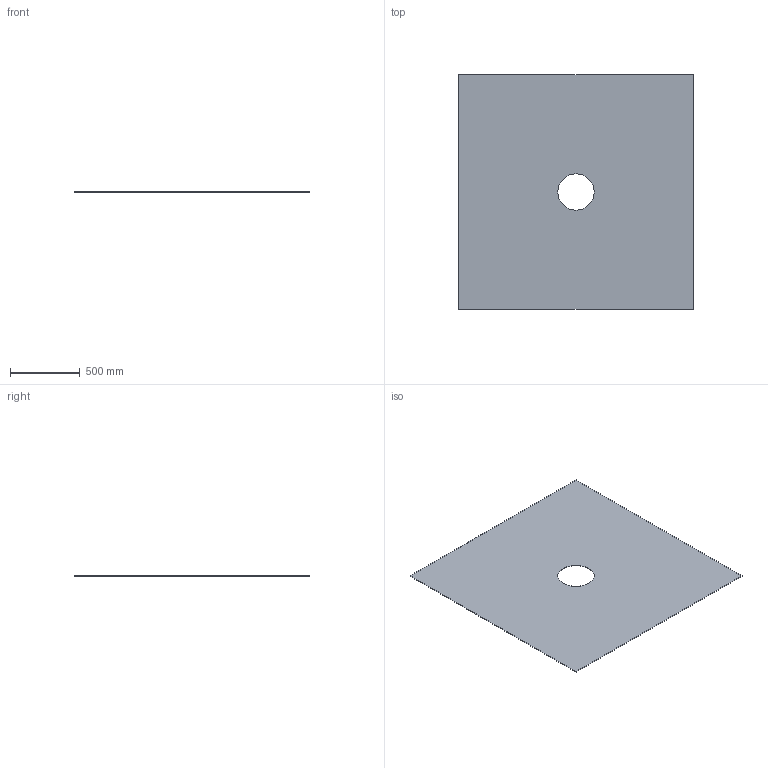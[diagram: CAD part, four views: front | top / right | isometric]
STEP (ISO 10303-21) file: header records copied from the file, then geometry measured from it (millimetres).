
FILE_DESCRIPTION(('Open CASCADE Model'),'2;1');
FILE_NAME('Open CASCADE Shape Model','2026-10-15T15:10:04',('Author'),( 'Open CASCADE'),'Open CASCADE STEP processor 8.0','Open CASCADE 8.0' ,'Unknown');
FILE_SCHEMA(('AUTOMOTIVE_DESIGN { 1 0 10303 214 1 1 1 1 }'));
Length unit declared in the file: millimetre
Products named in the file (1): TOL_TAPA_POLVO_1662x1662x3_P05 41
Bounding box: 1682 x 1682 x 3 mm (x, y, z)
Volume: 8328093.3 mm3; surface area: 5574696.6 mm2
Topology: 1 solids, 1 shells, 7 faces, 15 edges, 10 vertices
Faces by surface type: plane 6, cylinder 1
Full cylindrical faces by diameter (mm): 260 x1
Entity records: 400 total; most frequent: CARTESIAN_POINT 63, DIRECTION 63, LINE 41, VECTOR 41, ORIENTED_EDGE 30, PCURVE 30, DEFINITIONAL_REPRESENTATION 30, EDGE_CURVE 15
